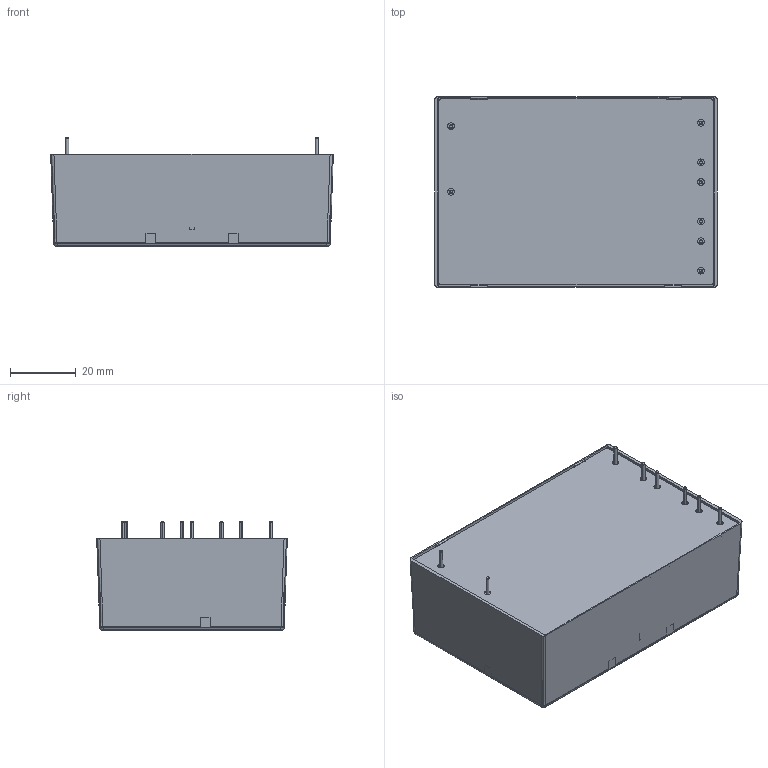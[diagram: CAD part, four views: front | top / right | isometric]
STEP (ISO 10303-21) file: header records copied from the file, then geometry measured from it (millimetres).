
FILE_DESCRIPTION((''),'2;1');
FILE_NAME('C:\Users\yaginuma\Documents\TRACO　STEPデータ送付関係\TMT305xx(ピン_トリプル）\30T_ピン_Assembly.stp\30T_pin_triple_Assembly.stp','2013-02-05T12:04:23',('yaginuma'),(''),'Autodesk Inventor 9','Autodesk Inventor 9','');
FILE_SCHEMA(('AUTOMOTIVE_DESIGN { 1 0 10303 214 1 1 1 1 }'));
Length unit declared in the file: millimetre
Products named in the file (5): 30T_ピン_Assembly; CU40016N_上ケース; 30T基板; ピン; CL40011N_下ケース絶縁板
Assembly tree (11 placements, depth 2):
  30T_ピン_Assembly
    CU40016N_上ケース
    30T基板
    ピン  x8
    CL40011N_下ケース絶縁板
Bounding box: 86 x 58 x 33.1 mm (x, y, z)
Volume: 15472.5 mm3; surface area: 44753.5 mm2
Topology: 31 solids, 31 shells, 616 faces, 1551 edges, 994 vertices
Faces by surface type: plane 296, cylinder 151, bspline 133, cone 32, sphere 4
Entity records: 17956 total; most frequent: CARTESIAN_POINT 4740, ORIENTED_EDGE 2890, DIRECTION 2303, EDGE_CURVE 1445, VECTOR 957, LINE 957, VERTEX_POINT 938, AXIS2_PLACEMENT_3D 673
